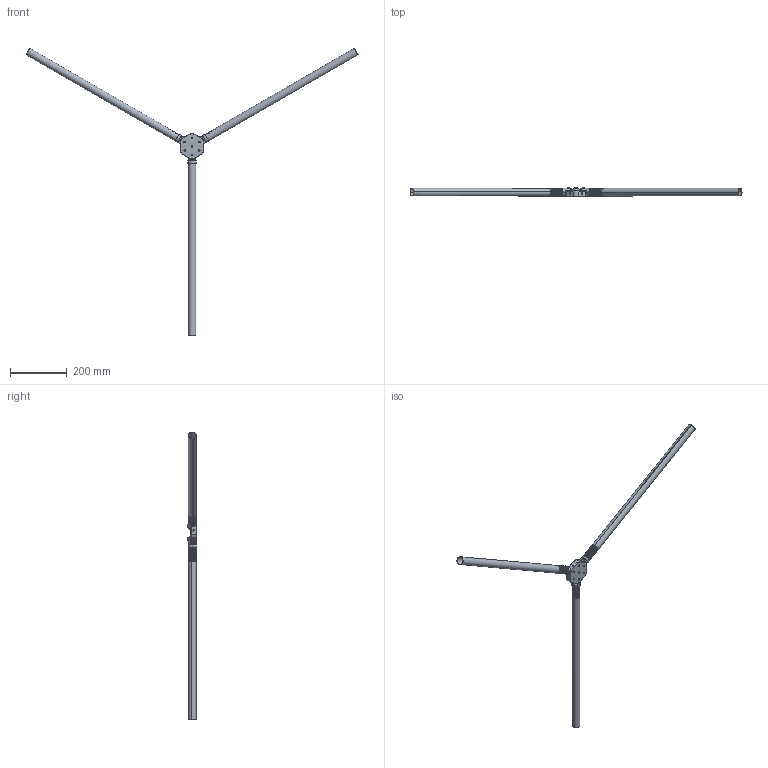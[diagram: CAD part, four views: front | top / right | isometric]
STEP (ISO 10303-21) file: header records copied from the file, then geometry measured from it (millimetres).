
FILE_DESCRIPTION (( 'STEP AP214' ), '1' );
FILE_NAME ('Six Sided Connector with Three Single Sided Clevis Connectors Connection.STEP', '2013-08-19T16:12:56', ( 'ydmin' ), ( 'Microsoft' ), 'SwSTEP 2.0', 'SolidWorks 2013', '' );
FILE_SCHEMA (( 'AUTOMOTIVE_DESIGN' ));
Length unit declared in the file: inch
Products named in the file (5): 6.000 Inch Tube; 91255A542_91255A542; DRP-002-0511-00_LEFT-TO-RIGHT OUTER TUBE INSERT; DRP-002-0507-00; Six Sided Connector with Three Single Sided Clevis Connectors Connection
Assembly tree (10 placements, depth 2):
  Six Sided Connector with Three Single Sided Clevis Connectors Connection
    DRP-002-0507-00
    DRP-002-0511-00_LEFT-TO-RIGHT OUTER TUBE INSERT  x3
    91255A542_91255A542  x3
    6.000 Inch Tube  x3
Bounding box: 1175.32 x 30.45 x 1017.86 mm (x, y, z)
Volume: 318381.8 mm3; surface area: 364082.5 mm2
Topology: 10 solids, 10 shells, 1348 faces, 3402 edges, 2071 vertices
Faces by surface type: cylinder 608, plane 392, cone 315, torus 24, sphere 9
Entity records: 17541 total; most frequent: CARTESIAN_POINT 5282, DIRECTION 2595, ORIENTED_EDGE 2488, EDGE_CURVE 1244, AXIS2_PLACEMENT_3D 956, VERTEX_POINT 761, LINE 683, VECTOR 683
